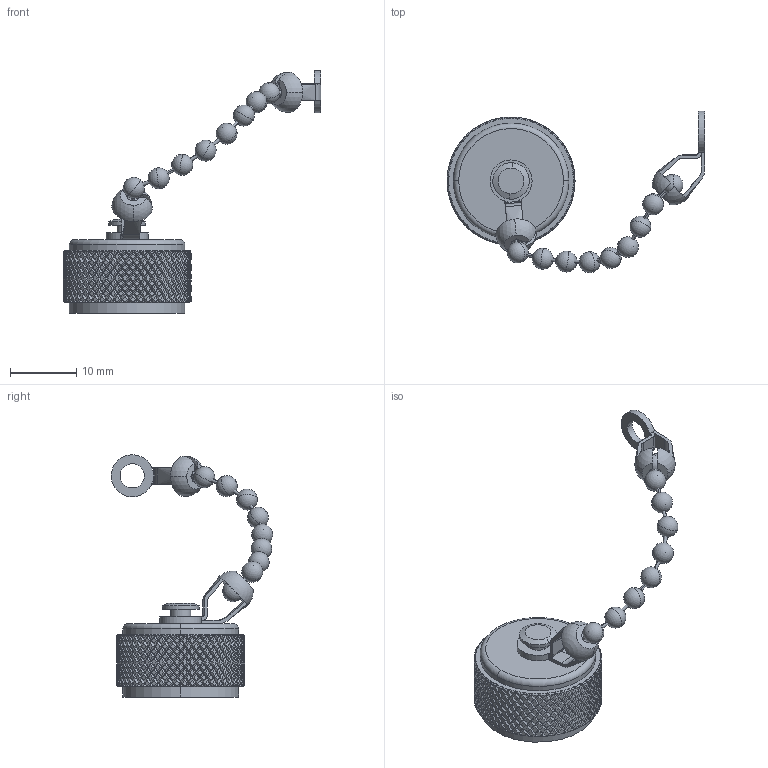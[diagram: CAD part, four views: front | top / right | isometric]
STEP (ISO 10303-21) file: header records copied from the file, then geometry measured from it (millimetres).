
FILE_DESCRIPTION (( 'STEP AP203' ), '1' );
FILE_NAME ('1132000A00E-000st.STEP', '2021-05-17T15:14:26', ( '' ), ( '' ), 'SwSTEP 2.0', 'SolidWorks 2019', '' );
FILE_SCHEMA (( 'CONFIG_CONTROL_DESIGN' ));
Products named in the file (1): 1132000A00E-000st
Bounding box: 38.91 x 24.36 x 36.58 mm (x, y, z)
Volume: 1918.3 mm3; surface area: 3369.4 mm2
Topology: 24 solids, 24 shells, 3187 faces, 6902 edges, 3741 vertices
Faces by surface type: bspline 2252, cylinder 628, cone 212, plane 61, sphere 32, torus 2
Entity records: 116995 total; most frequent: CARTESIAN_POINT 74966, ORIENTED_EDGE 13684, EDGE_CURVE 6842, VERTEX_POINT 3707, EDGE_LOOP 3201, ADVANCED_FACE 3187, FACE_OUTER_BOUND 3187, DIRECTION 3099
